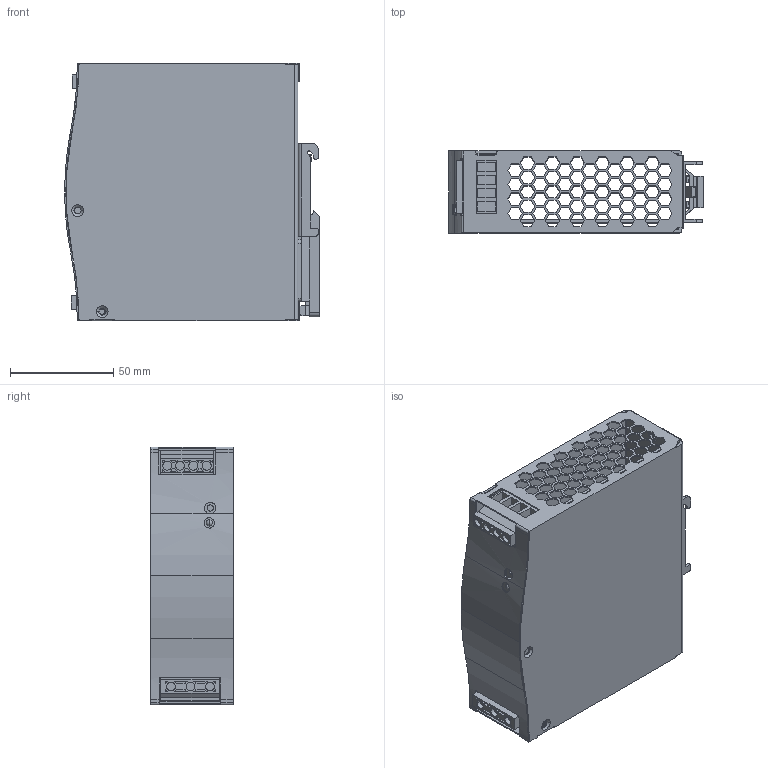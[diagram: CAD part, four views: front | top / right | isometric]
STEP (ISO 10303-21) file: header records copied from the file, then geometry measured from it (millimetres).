
FILE_DESCRIPTION(('OneSpaceDesigner STEP Export'),'2;1');
FILE_NAME('WDR-120.stp','2010-06-08T17:00:21',(''),(''),'OneSpace Designer STEP processor for AP214 (Solid Model)','OneSpace Designer 13.20 11-May-2005 (C) CoCreate Software GmbH','');
FILE_SCHEMA(('AUTOMOTIVE_DESIGN { 1 0 10303 214 1 1 1 1 }'));
Length unit declared in the file: millimetre
Products named in the file (3): CASE; pcb2; WDR-120
Assembly tree (2 placements, depth 2):
  WDR-120
    pcb2
    CASE
Bounding box: 123.65 x 40 x 125.2 mm (x, y, z)
Volume: 97604.5 mm3; surface area: 130909 mm2
Topology: 2 solids, 2 shells, 1500 faces, 4369 edges, 2869 vertices
Faces by surface type: plane 1223, cylinder 227, torus 30, cone 16, bspline 4
Entity records: 45839 total; most frequent: CARTESIAN_POINT 9339, ORIENTED_EDGE 8738, DIRECTION 5940, EDGE_CURVE 4369, VECTOR 3316, LINE 3316, VERTEX_POINT 2869, EDGE_LOOP 1832
